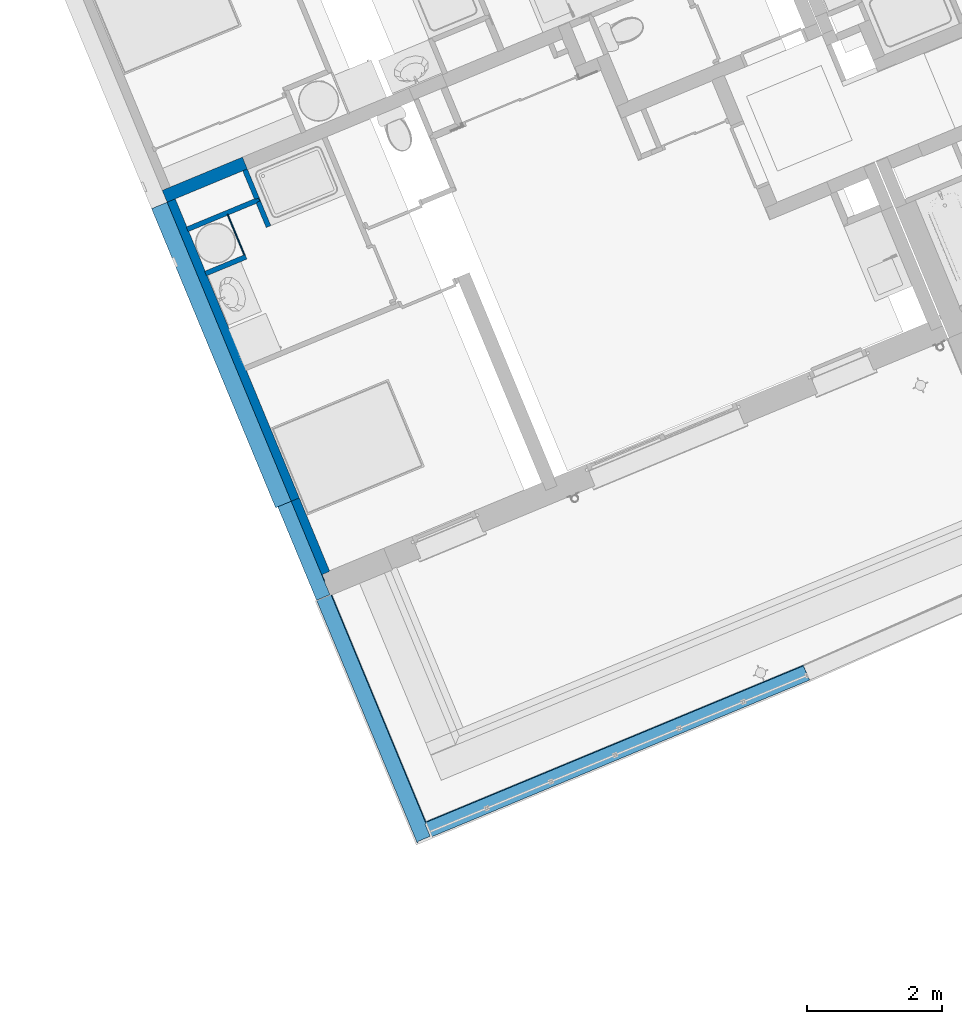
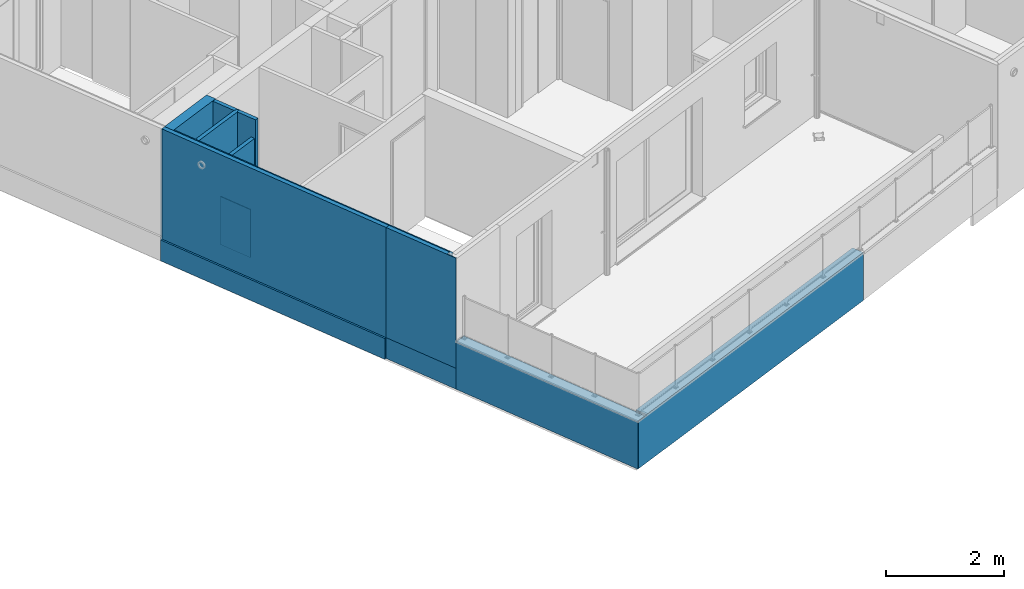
# One storey, part 35 of 119: 12 walls.
"""IFC2X3 building model written with IfcOpenShell, lengths in metres."""

from ifc_helpers import new_model, entity, si_unit, converted_unit, derived_unit, money_unit, direction, frame, origin_with_axes, place, context, subcontext, project, spatial, open_shell, faceted_brep, surface_model, material, material_list, type_object, element, save


model = new_model("IFC2X3")

# Units and contexts
model_context = context("Model", 3, precision=1e-05, world=origin_with_axes(), true_north=direction((0.0, 1.0)))
body_context = subcontext(model_context, "Body", "Model", "MODEL_VIEW")
ifc_project = project(units=[si_unit("LENGTHUNIT", "METRE"), si_unit("AREAUNIT", "SQUARE_METRE"), si_unit("VOLUMEUNIT", "CUBIC_METRE"), converted_unit("PLANEANGLEUNIT", "DEGREE", entity("IfcPlaneAngleMeasure", 0.0174532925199), si_unit("PLANEANGLEUNIT", "RADIAN"), dimensions=[0, 0, 0, 0, 0, 0, 0]), si_unit("SOLIDANGLEUNIT", "STERADIAN"), money_unit("EUR"), converted_unit("TIMEUNIT", "Year", entity("IfcTimeMeasure", 31556926.0), si_unit("TIMEUNIT", "SECOND"), dimensions=[0, 0, 1, 0, 0, 0, 0]), si_unit("MASSUNIT", "GRAM", prefix="KILO"), si_unit("THERMODYNAMICTEMPERATUREUNIT", "DEGREE_CELSIUS"), si_unit("LUMINOUSINTENSITYUNIT", "LUMEN"), si_unit("ENERGYUNIT", "JOULE", prefix="MEGA"), derived_unit("THERMALCONDUCTANCEUNIT", [(si_unit("POWERUNIT", "WATT"), 1), (si_unit("LENGTHUNIT", "METRE"), -1), (si_unit("THERMODYNAMICTEMPERATUREUNIT", "KELVIN"), -1)]), derived_unit("SPECIFICHEATCAPACITYUNIT", [(si_unit("ENERGYUNIT", "JOULE"), 1), (si_unit("MASSUNIT", "GRAM", prefix="KILO"), -1), (si_unit("THERMODYNAMICTEMPERATUREUNIT", "KELVIN"), -1)]), derived_unit("MASSDENSITYUNIT", [(si_unit("MASSUNIT", "GRAM", prefix="KILO"), 1), (si_unit("VOLUMEUNIT", "CUBIC_METRE"), -1)])], contexts=[model_context])

# Site, building, storey
site_placement = place(None, origin_with_axes())
site = spatial("IfcSite", under=ifc_project, at=site_placement, Name="Site", CompositionType="ELEMENT")
building_placement = place(site_placement, origin_with_axes())
building = spatial("IfcBuilding", under=site, at=building_placement, Name="Bâtiment", CompositionType="ELEMENT")
storey_placement = place(building_placement, origin_with_axes())
storey = spatial("IfcBuildingStorey", under=building, at=storey_placement, Name="Rez-de-chaussée", CompositionType="ELEMENT", Elevation=0.0)

# Walls
ifc_material_1 = material(Name="Béton")
wall_type_1 = type_object("IfcWallType", Name="Béton 250", PredefinedType="USERDEFINED")
wall_1_placement = place(storey_placement, frame((-33.2053250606, -22.6704058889, 0.0), z_axis=(0.0, 0.0, 1.0), x_axis=(0.383112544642, -0.923701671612, 0.0)))
element("IfcWall", 1, at=wall_1_placement, inside=storey, type_object=wall_type_1, material=ifc_material_1, Name="Voile projeté béton par passes alternées", ObjectType="SOLIDWALL", context=body_context, shape_type="Brep", body=[
    faceted_brep([(0.0, 0.0, 0.433099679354), (0.0, -0.25, 0.433099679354), (4.80482538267, -0.25, 0.433099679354), (4.80482538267, 0.0, 0.433099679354), (0.0, 0.0, 0.0), (0.0, -0.25, 0.0), (4.80482538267, -0.25, 0.0), (4.80482538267, 0.0, 0.0)], [[[0, 1, 2, 3]], [[4, 5, 1, 0]], [[1, 5, 6, 2]], [[7, 3, 2, 6]], [[4, 0, 3, 7]], [[5, 4, 7, 6]]]),
])
ifc_material_2 = material(Name="Finition int - Plaque de plâtre")
ifc_material_3 = material(Name="Isolation - Laine de roche")
ifc_material_list_1 = material_list([ifc_material_2, ifc_material_3, ifc_material_2])
wall_type_2 = type_object("IfcWallType", Name="3 - Cloison 72mm Placostil 74", PredefinedType="USERDEFINED")
wall_2_placement = place(storey_placement, frame((-31.6669648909, -23.0175254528, 0.0), z_axis=(0.0, 0.0, 1.0), x_axis=(-0.383112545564, 0.923701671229, 0.0)))
element("IfcWall", 2, at=wall_2_placement, inside=storey, type_object=wall_type_2, material=ifc_material_list_1, Name="Cloison Placostil 72/48", ObjectType="PARTITIONING", context=body_context, shape_type="Brep", body=[
    faceted_brep([(0.0, 0.061, 0.0), (0.387000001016, 0.061, 0.0), (0.387000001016, 0.061, 2.5), (0.0, 0.061, 2.5), (0.0, 0.074, 0.0), (0.387000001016, 0.074, 0.0), (0.387000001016, 0.074, 2.5), (0.0, 0.074, 2.5)], [[[0, 1, 2, 3]], [[4, 5, 1, 0]], [[5, 6, 2, 1]], [[3, 2, 6, 7]], [[0, 3, 7, 4]], [[7, 6, 5, 4]]]),
    faceted_brep([(0.0, 0.013, 0.0), (0.400000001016, 0.013, 0.0), (0.400000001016, 0.013, 2.5), (0.0, 0.013, 2.5), (0.0, 0.061, 0.0), (0.400000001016, 0.061, 0.0), (0.400000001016, 0.061, 2.5), (0.0, 0.061, 2.5)], [[[0, 1, 2, 3]], [[4, 5, 1, 0]], [[5, 6, 2, 1]], [[3, 2, 6, 7]], [[0, 3, 7, 4]], [[7, 6, 5, 4]]]),
    faceted_brep([(0.0, 0.0, 0.0), (0.387000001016, 0.0, 0.0), (0.387000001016, 0.0, 2.5), (0.0, 0.0, 2.5), (0.0, 0.013, 0.0), (0.387000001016, 0.013, 0.0), (0.387000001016, 0.013, 2.5), (0.0, 0.013, 2.5)], [[[0, 1, 2, 3]], [[4, 5, 1, 0]], [[5, 6, 2, 1]], [[3, 2, 6, 7]], [[0, 3, 7, 4]], [[7, 6, 5, 4]]]),
])
wall_3_placement = place(storey_placement, frame((-32.6218638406, -23.7639333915, 0.0), z_axis=(0.0, 0.0, 1.0), x_axis=(0.92370167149, 0.383112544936, 0.0)))
element("IfcWall", 3, at=wall_3_placement, inside=storey, type_object=wall_type_2, material=ifc_material_list_1, Name="Cloison Placostil 72/48", ObjectType="PARTITIONING", context=body_context, shape_type="Brep", body=[
    faceted_brep([(0.0, 0.074, 0.0), (0.650000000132, 0.074, 0.0), (0.650000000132, 0.061, 0.0), (0.0, 0.061, 0.0), (0.0, 0.074, 2.5), (0.650000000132, 0.074, 2.5), (0.650000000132, 0.061, 2.5), (0.0, 0.061, 2.5)], [[[0, 1, 2, 3]], [[4, 5, 1, 0]], [[2, 1, 5, 6]], [[3, 2, 6, 7]], [[4, 0, 3, 7]], [[7, 6, 5, 4]]]),
    faceted_brep([(0.0, 0.061, 0.0), (0.650000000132, 0.061, 0.0), (0.650000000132, 0.013, 0.0), (0.0, 0.013, 0.0), (0.0, 0.061, 2.5), (0.650000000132, 0.061, 2.5), (0.650000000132, 0.013, 2.5), (0.0, 0.013, 2.5)], [[[0, 1, 2, 3]], [[4, 5, 1, 0]], [[2, 1, 5, 6]], [[3, 2, 6, 7]], [[4, 0, 3, 7]], [[7, 6, 5, 4]]]),
    faceted_brep([(0.0, 0.013, 0.0), (0.650000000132, 0.013, 0.0), (0.650000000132, 0.0, 0.0), (0.0, 0.0, 0.0), (0.0, 0.013, 2.5), (0.650000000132, 0.013, 2.5), (0.650000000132, 0.0, 2.5), (0.0, 0.0, 2.5)], [[[0, 1, 2, 3]], [[4, 5, 1, 0]], [[2, 1, 5, 6]], [[3, 2, 6, 7]], [[4, 0, 3, 7]], [[7, 6, 5, 4]]]),
])
wall_type_3 = type_object("IfcWallType", Name="3 - Cloison Gaine Technique 72mm 74", PredefinedType="USERDEFINED")
wall_4_placement = place(storey_placement, frame((-31.8152294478, -22.6600529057, 0.0), z_axis=(0.0, 0.0, 1.0), x_axis=(-0.923701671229, -0.383112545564, 0.0)))
element("IfcWall", 4, at=wall_4_placement, inside=storey, type_object=wall_type_3, material=ifc_material_list_1, Name="Cloison Placostil 72/48", ObjectType="PARTITIONING", context=body_context, shape_type="Brep", body=[
    faceted_brep([(1.16799999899, 0.0, 0.0), (0.537999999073, 0.0, 0.0), (0.537999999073, 0.0, 1.0), (0.517999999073, 0.0, 1.0), (0.517999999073, 0.0, 0.0), (0.0609999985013, 0.0, 0.0), (0.0609999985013, 0.0, 2.5), (1.16799999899, 0.0, 2.5), (1.16799999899, -0.013, 0.0), (0.537999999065, -0.013, 0.0), (0.537999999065, -0.013, 1.0), (0.517999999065, -0.013, 1.0), (0.517999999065, -0.013, 0.0), (0.0609999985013, -0.013, 0.0), (0.0609999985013, -0.013, 2.5), (1.16799999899, -0.013, 2.5)], [[[0, 1, 2, 3, 4, 5, 6, 7]], [[8, 9, 1, 0]], [[10, 2, 1, 9]], [[11, 3, 2, 10]], [[12, 4, 3, 11]], [[5, 4, 12, 13]], [[13, 14, 6, 5]], [[7, 6, 14, 15]], [[0, 7, 15, 8]], [[11, 10, 9, 8, 15, 14, 13, 12]]]),
    faceted_brep([(-1.49868384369e-09, -0.013, 2.5), (0.0129999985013, -0.013, 2.5), (0.0129999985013, 0.0, 2.5), (-1.49868384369e-09, 0.0, 2.5), (-1.49868384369e-09, -0.013, 0.0), (0.0129999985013, -0.013, 0.0), (0.0129999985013, 0.0, 0.0), (-1.49868384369e-09, 0.0, 0.0)], [[[0, 1, 2, 3]], [[4, 5, 1, 0]], [[5, 6, 2, 1]], [[3, 2, 6, 7]], [[7, 4, 0, 3]], [[7, 6, 5, 4]]]),
    faceted_brep([(0.0129999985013, -0.013, 2.5), (0.0129999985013, -0.061, 2.5), (1.16799999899, -0.061, 2.5), (1.16799999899, -0.013, 2.5), (0.0129999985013, -0.013, 0.0), (0.0129999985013, -0.061, 0.0), (1.16799999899, -0.061, 0.0), (1.16799999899, -0.013, 0.0)], [[[0, 1, 2, 3]], [[4, 5, 1, 0]], [[1, 5, 6, 2]], [[7, 3, 2, 6]], [[4, 0, 3, 7]], [[5, 4, 7, 6]]]),
    faceted_brep([(0.0609999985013, -0.074, 2.5), (1.16799999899, -0.074, 2.5), (1.16799999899, -0.061, 2.5), (0.0609999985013, -0.061, 2.5), (0.0609999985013, -0.074, 0.0), (1.16799999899, -0.074, 0.0), (1.16799999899, -0.061, 0.0), (0.0609999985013, -0.061, 0.0)], [[[0, 1, 2, 3]], [[4, 5, 1, 0]], [[2, 1, 5, 6]], [[3, 2, 6, 7]], [[4, 0, 3, 7]], [[7, 6, 5, 4]]]),
])
wall_5_placement = place(storey_placement, frame((-31.8152294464, -22.6600529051, 0.0), z_axis=(0.0, 0.0, 1.0), x_axis=(-0.383112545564, 0.923701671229, 0.0)))
element("IfcWall", 5, at=wall_5_placement, inside=storey, type_object=wall_type_3, material=ifc_material_list_1, Name="Cloison Placostil 72/48", ObjectType="PARTITIONING", context=body_context, shape_type="Brep", body=[
    faceted_brep([(0.074, 0.074, 0.0), (0.523000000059, 0.074, 0.0), (0.523000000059, 0.061, 0.0), (0.074, 0.061, 0.0), (0.074, 0.074, 2.5), (0.523000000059, 0.074, 2.5), (0.523000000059, 0.061, 2.5), (0.074, 0.061, 2.5)], [[[0, 1, 2, 3]], [[4, 5, 1, 0]], [[2, 1, 5, 6]], [[3, 2, 6, 7]], [[4, 0, 3, 7]], [[7, 6, 5, 4]]]),
    faceted_brep([(0.061, 0.061, 0.0), (0.523000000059, 0.061, 0.0), (0.523000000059, 0.013, 0.0), (0.061, 0.013, 0.0), (0.061, 0.061, 2.5), (0.523000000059, 0.061, 2.5), (0.523000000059, 0.013, 2.5), (0.061, 0.013, 2.5)], [[[0, 1, 2, 3]], [[4, 5, 1, 0]], [[2, 1, 5, 6]], [[3, 2, 6, 7]], [[4, 0, 3, 7]], [[7, 6, 5, 4]]]),
    faceted_brep([(0.013, 0.0, 0.0), (0.013, 0.013, 0.0), (0.523000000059, 0.013, 0.0), (0.523000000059, 0.0, 0.0), (0.013, 0.0, 2.5), (0.013, 0.013, 2.5), (0.523000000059, 0.013, 2.5), (0.523000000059, 0.0, 2.5)], [[[0, 1, 2, 3]], [[4, 5, 1, 0]], [[1, 5, 6, 2]], [[7, 3, 2, 6]], [[4, 0, 3, 7]], [[5, 4, 7, 6]]]),
])
ifc_material_4 = material(Name="Finition int - Enduit plâtre")
ifc_material_list_2 = material_list([ifc_material_4, ifc_material_1])
wall_type_4 = type_object("IfcWallType", Name="2 - Murs Béton 18 + Enduit 1 Face 190", PredefinedType="USERDEFINED")
wall_6_placement = place(storey_placement, frame((-33.2781164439, -22.4949025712, 0.0), z_axis=(0.0, 0.0, 1.0), x_axis=(0.92370167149, 0.383112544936, 0.0)))
element("IfcWall", 6, at=wall_6_placement, inside=storey, type_object=wall_type_4, material=ifc_material_list_2, Name="M_Ext-008", ObjectType="SOLIDWALL", context=body_context, shape_type="Brep", body=[
    faceted_brep([(1.28799999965, 0.0, 2.51), (1.28799999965, -0.01, 2.51), (1.28799999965, -0.01, 0.0), (1.28799999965, 0.0, 0.0), (0.0, -0.01, 2.51), (0.0, -1.18464331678e-08, 2.51), (-1.61357149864e-10, -0.01, 0.493), (-1.61357149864e-10, -0.01, 0.0), (-1.5816681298e-10, 0.0, 0.0), (-1.58173918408e-10, -1.18464349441e-08, 0.493)], [[[0, 1, 2, 3]], [[4, 1, 0, 5]], [[1, 4, 6, 7, 2]], [[2, 7, 8, 3]], [[5, 0, 3, 8, 9]], [[4, 5, 9, 6]], [[8, 7, 6, 9]]]),
    faceted_brep([(1.28799999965, -0.01, 2.51), (1.28799999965, -0.19, 2.51), (1.28799999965, -0.19, 0.0), (1.28799999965, -0.01, 0.0), (0.0, -0.19, 2.51), (0.0, -0.01, 2.51), (-2.1869794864e-10, -0.19, 0.493), (-2.1869794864e-10, -0.19, 0.0), (-1.61357149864e-10, -0.01, 0.0), (-1.61357149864e-10, -0.01, 0.493)], [[[0, 1, 2, 3]], [[4, 1, 0, 5]], [[1, 4, 6, 7, 2]], [[2, 7, 8, 3]], [[5, 0, 3, 8, 9]], [[4, 5, 9, 6]], [[8, 7, 6, 9]]]),
])
ifc_material_5 = material(Name="Isolation - Polystyrène extrudé")
ifc_material_6 = material(Name="Etanchéité résine")
ifc_material_7 = material(Name="Finition ext - Crépis")
ifc_material_list_3 = material_list([ifc_material_2, ifc_material_5, ifc_material_6, ifc_material_1, ifc_material_7])
wall_type_5 = type_object("IfcWallType", Name="1 - Mur Extérieur BETON étanché+Isolant 120 + ravalement 345", PredefinedType="USERDEFINED")
wall_7_placement = place(storey_placement, frame((-33.3900653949, -22.7470283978, 0.433099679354), z_axis=(0.0, 0.0, 1.0), x_axis=(0.383112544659, -0.923701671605, 0.0)))
element("IfcWall", 7, at=wall_7_placement, inside=storey, type_object=wall_type_5, material=ifc_material_list_3, Name="M_Ext-009", ObjectType="SOLIDWALL", context=body_context, shape_type="Brep", body=[
    faceted_brep([(0.0, 0.33, 2.07690032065), (4.80482538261, 0.33, 2.07690032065), (4.80482538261, 0.33, 0.0), (0.0, 0.33, 0.0), (4.80482538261, 0.32, 2.07690032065), (0.0, 0.32, 2.07690032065), (4.80482538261, 0.32, 0.0), (0.0, 0.32, 0.0)], [[[0, 1, 2, 3]], [[4, 1, 0, 5]], [[1, 4, 6, 2]], [[3, 2, 6, 7]], [[5, 0, 3, 7]], [[4, 5, 7, 6]]]),
    faceted_brep([(0.0, 0.32, 2.07690032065), (4.80482538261, 0.32, 2.07690032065), (4.80482538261, 0.32, 0.0), (0.0, 0.32, 0.0), (4.80482538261, 0.21, 2.07690032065), (0.0, 0.21, 2.07690032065), (4.80482538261, 0.21, 0.0), (0.0, 0.21, 0.0)], [[[0, 1, 2, 3]], [[4, 1, 0, 5]], [[1, 4, 6, 2]], [[3, 2, 6, 7]], [[5, 0, 3, 7]], [[4, 5, 7, 6]]]),
    faceted_brep([(0.0, 0.21, 2.07690032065), (4.80482538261, 0.21, 2.07690032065), (4.80482538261, 0.21, 0.0), (0.0, 0.21, 0.0), (4.80482538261, 0.2, 2.07690032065), (0.0, 0.2, 2.07690032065), (4.80482538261, 0.2, 0.0), (0.0, 0.2, 0.0)], [[[0, 1, 2, 3]], [[4, 1, 0, 5]], [[1, 4, 6, 2]], [[3, 2, 6, 7]], [[5, 0, 3, 7]], [[4, 5, 7, 6]]]),
    faceted_brep([(0.0, 0.2, 2.07690032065), (4.80482538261, 0.2, 2.07690032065), (4.80482538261, 0.2, 0.0), (0.0, 0.2, 0.0), (4.80482538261, 0.0679999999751, 2.07690032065), (0.0, 0.0679999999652, 2.07690032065), (4.80482538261, 0.0679999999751, 2.28690032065), (4.80482538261, 0.0, 2.28690032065), (4.80482538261, 0.0, 0.0), (0.0, 0.0, 0.0), (0.0, 0.0, 2.28690032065), (0.0, 0.0679999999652, 2.28690032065)], [[[0, 1, 2, 3]], [[4, 1, 0, 5]], [[4, 6, 7, 8, 2, 1]], [[3, 2, 8, 9]], [[5, 0, 3, 9, 10, 11]], [[11, 6, 4, 5]], [[6, 11, 10, 7]], [[9, 8, 7, 10]]]),
    faceted_brep([(4.80482538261, 0.0, 0.0), (4.80482538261, -0.015, 0.0), (0.0, -0.015, 0.0), (0.0, 0.0, 0.0), (4.80482538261, 0.0, 2.28690032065), (4.80482538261, -0.015, 2.28690032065), (0.0, -0.015, 2.28690032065), (0.0, 0.0, 2.28690032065)], [[[0, 1, 2, 3]], [[0, 4, 5, 1]], [[1, 5, 6, 2]], [[3, 2, 6, 7]], [[4, 0, 3, 7]], [[5, 4, 7, 6]]]),
])
wall_8_placement = place(storey_placement, frame((-31.5492765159, -27.1852536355, 0.433099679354), z_axis=(0.0, 0.0, 1.0), x_axis=(0.383112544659, -0.923701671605, 0.0)))
element("IfcWall", 8, at=wall_8_placement, inside=storey, type_object=wall_type_5, material=ifc_material_list_3, Name="M_Ext-009", ObjectType="SOLIDWALL", context=body_context, shape_type="Brep", body=[
    faceted_brep([(0.0, 0.33, 2.07690032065), (1.17053599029, 0.33, 2.07690032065), (1.17053599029, 0.33, 0.0), (0.0, 0.33, 0.0), (1.17053599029, 0.32, 2.07690032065), (0.0, 0.32, 2.07690032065), (1.17053599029, 0.32, 0.0), (0.0, 0.32, 0.0)], [[[0, 1, 2, 3]], [[4, 1, 0, 5]], [[1, 4, 6, 2]], [[2, 6, 7, 3]], [[5, 0, 3, 7]], [[4, 5, 7, 6]]]),
    faceted_brep([(0.0, 0.32, 2.07690032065), (1.18053599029, 0.32, 2.07690032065), (1.18053599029, 0.32, 0.0), (0.0, 0.32, 0.0), (1.18053599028, 0.21, 2.07690032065), (0.0, 0.21, 2.07690032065), (1.18053599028, 0.21, 0.0), (0.0, 0.21, 0.0)], [[[0, 1, 2, 3]], [[4, 1, 0, 5]], [[1, 4, 6, 2]], [[2, 6, 7, 3]], [[5, 0, 3, 7]], [[4, 5, 7, 6]]]),
    faceted_brep([(0.0, 0.21, 2.07690032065), (1.29053599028, 0.21, 2.07690032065), (1.29053599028, 0.21, 0.0), (0.0, 0.21, 0.0), (1.29053599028, 0.2, 2.07690032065), (0.0, 0.2, 2.07690032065), (1.29053599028, 0.2, 0.0), (0.0, 0.2, 0.0)], [[[0, 1, 2, 3]], [[4, 1, 0, 5]], [[1, 4, 6, 2]], [[2, 6, 7, 3]], [[5, 0, 3, 7]], [[4, 5, 7, 6]]]),
    faceted_brep([(0.0, 0.2, 2.07690032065), (1.30053599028, 0.2, 2.07690032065), (1.30053599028, 0.2, 0.0), (0.0, 0.2, 0.0), (1.30053599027, 0.0679999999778, 2.07690032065), (0.0, 0.0679999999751, 2.07690032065), (1.30053599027, 0.0679999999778, 2.28690032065), (1.30053599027, 0.0, 2.28690032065), (1.30053599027, 0.0, 0.0), (0.0, 0.0, 0.0), (0.0, 0.0, 2.28690032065), (0.0, 0.0679999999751, 2.28690032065)], [[[0, 1, 2, 3]], [[4, 1, 0, 5]], [[4, 6, 7, 8, 2, 1]], [[2, 8, 9, 3]], [[5, 0, 3, 9, 10, 11]], [[11, 6, 4, 5]], [[6, 11, 10, 7]], [[8, 7, 10, 9]]]),
    faceted_brep([(1.50053599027, -0.015, 0.0), (0.0, -0.015, 0.0), (0.0, 0.0, 0.0), (1.50053599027, 0.0, 0.0), (1.50053599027, -0.015, 2.28690032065), (0.0, -0.015, 2.28690032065), (0.0, 0.0, 2.28690032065), (1.50053599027, 0.0, 2.28690032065)], [[[0, 1, 2, 3]], [[4, 5, 1, 0]], [[2, 1, 5, 6]], [[3, 2, 6, 7]], [[3, 7, 4, 0]], [[7, 6, 5, 4]]]),
])
ifc_material_8 = material(Name="Métal - Aluminium")
ifc_material_9 = material(Name="Etanchéité - Bitume")
ifc_material_list_4 = material_list([ifc_material_8, ifc_material_7, ifc_material_9, ifc_material_1, ifc_material_7])
wall_type_6 = type_object("IfcWallType", Name="Acrotère ravalement contre terre 242 x 1000", PredefinedType="USERDEFINED")
wall_9_placement = place(storey_placement, frame((-29.4949988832, -32.1778918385, 0.25), z_axis=(0.0, 0.0, 1.0), x_axis=(0.923701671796, 0.383112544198, 0.0)))
element("IfcWall", 9, at=wall_9_placement, inside=storey, type_object=wall_type_6, material=ifc_material_list_4, Name="Muret béton 20cm", ObjectType="PARAPET", context=body_context, shape_type="SurfaceModel", body=[
    faceted_brep([(0.216056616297, 0.215, 0.357041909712), (0.216056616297, 0.215, 0.320023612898), (0.219586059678, 0.215, 0.31897654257), (6.30291875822, 0.215, 0.318976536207), (6.30291875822, 0.215, 0.357041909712), (0.21605667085, 0.216045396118, 0.357041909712), (0.21605667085, 0.216045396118, 0.320023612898), (0.219586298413, 0.219574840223, 0.31897654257), (0.242497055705, 0.237655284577, 0.312179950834), (0.242497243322, 0.241250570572, 0.311101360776), (6.30265209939, 0.241250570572, 0.311101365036), (6.30290813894, 0.216045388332, 0.320023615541), (6.30290813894, 0.216045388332, 0.357041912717), (6.30265209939, 0.241250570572, 0.282882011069), (6.30263956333, 0.242484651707, 0.282882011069), (6.30263956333, 0.242484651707, 0.312179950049), (0.242497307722, 0.242484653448, 0.312179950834), (0.242497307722, 0.242484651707, 0.31), (0.242497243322, 0.241250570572, 0.31), (0.242497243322, 0.241250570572, 0.282882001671), (0.242497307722, 0.242484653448, 0.282882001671)], [[[0, 1, 2, 3, 4]], [[1, 0, 5, 6]], [[7, 2, 1, 6]], [[8, 9, 10, 3, 2]], [[11, 12, 4, 3, 10, 13, 14, 15]], [[5, 0, 4, 12]], [[6, 5, 12, 11]], [[2, 7, 16, 8]], [[7, 6, 11, 15, 16]], [[9, 8, 16, 17, 18]], [[9, 18, 19, 13, 10]], [[19, 20, 14, 13]], [[17, 16, 15, 14, 20]], [[18, 17, 20, 19]]]),
    faceted_brep([(6.3007342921, 0.215, 0.737322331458), (6.3007342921, 0.215, 0.75), (0.243270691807, 0.215, 0.75), (0.243270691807, 0.215, 0.737322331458), (0.237704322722, 0.215, 0.737322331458), (0.236734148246, 0.215, 0.735660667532), (0.240138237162, 0.215, 0.733044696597), (0.245013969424, 0.215, 0.729297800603), (0.230011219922, 0.215, 0.729297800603), (0.230011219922, 0.215, 0.357041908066), (6.30291875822, 0.215, 0.357041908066), (6.30291875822, 0.215, 0.729297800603), (6.3007342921, 0.215, 0.729297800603), (6.3007342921, 0.215, 0.733044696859), (6.30043047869, 0.229952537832, 0.75), (6.30043047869, 0.229952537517, 0.737322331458), (6.30276673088, 0.23000000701, 0.75), (0.243270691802, 0.23, 0.75), (0.243270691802, 0.229999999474, 0.737322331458), (0.23770432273, 0.229999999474, 0.737322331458), (0.236734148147, 0.229999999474, 0.735660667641), (0.240138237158, 0.229999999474, 0.733044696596), (0.245013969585, 0.229999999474, 0.729297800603), (0.230012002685, 0.229999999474, 0.729297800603), (0.230012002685, 0.229999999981, 0.357041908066), (0.230011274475, 0.216045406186, 0.357041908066), (6.30290813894, 0.216045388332, 0.357041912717), (6.30276638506, 0.229999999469, 0.729297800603), (6.30276638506, 0.229999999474, 0.357041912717), (6.3004304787, 0.229952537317, 0.729297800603), (6.3004304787, 0.22995253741, 0.733044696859), (6.30276637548, 0.229999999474, 0.737322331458), (6.30276638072, 0.229999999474, 0.733044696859)], [[[0, 1, 2, 3, 4, 5, 6, 7, 8, 9, 10, 11, 12, 13]], [[14, 1, 0, 15]], [[14, 16, 17, 2, 1]], [[3, 2, 17, 18]], [[4, 3, 18, 19]], [[4, 19, 20, 5]], [[21, 6, 5, 20]], [[6, 21, 22, 7]], [[8, 7, 22, 23]], [[8, 23, 24, 25, 9]], [[9, 25, 26, 10]], [[27, 11, 10, 26, 28]], [[12, 11, 27, 29]], [[30, 13, 12, 29]], [[15, 0, 13, 30]], [[31, 16, 14, 15]], [[16, 31, 32, 27, 28, 24, 23, 22, 21, 20, 19, 18, 17]], [[25, 24, 28, 26]], [[32, 30, 29, 27]], [[31, 15, 30, 32]]]),
    faceted_brep([(0.225011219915, 0.215, -0.24), (6.30291875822, 0.215000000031, -0.24), (6.30291875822, 0.215, 0.31), (0.225011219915, 0.215, 0.31), (6.3028171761, 0.225000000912, -0.24), (0.225011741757, 0.225, -0.24), (6.30281717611, 0.225, 0.31), (0.225011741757, 0.225, 0.31)], [[[0, 1, 2, 3]], [[4, 1, 0, 5]], [[1, 4, 6, 2]], [[6, 7, 3, 2]], [[5, 0, 3, 7]], [[4, 5, 7, 6]]]),
    faceted_brep([(6.30479799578, 0.015, 0.737322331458), (6.30479799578, 0.015, 0.75), (0.24327069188, 0.015, 0.75), (0.24327069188, 0.015, 0.737322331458), (0.237704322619, 0.015, 0.737322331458), (0.236734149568, 0.015, 0.735660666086), (0.240138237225, 0.015, 0.733044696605), (0.24501396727, 0.015, 0.729297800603), (0.215000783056, 0.015, 0.729297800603), (0.215000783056, 0.015, 0.357041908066), (0.215000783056, 0.015, 0.31897654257), (0.215000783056, 0.015, 0.31), (0.215000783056, 0.015, 0.282882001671), (0.215000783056, 0.015, -0.25), (6.30510277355, 0.015, -0.25), (6.30510277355, 0.015, -0.249529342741), (6.30495040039, 0.015, -0.249529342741), (6.30495040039, 0.015, 0.729297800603), (6.30479799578, 0.015, 0.729297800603), (6.30479799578, 0.015, 0.733044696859), (6.30073519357, 0.214955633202, 0.75), (6.30073519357, 0.214955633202, 0.737322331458), (6.30291875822, 0.215, 0.75), (0.243270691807, 0.215, 0.75), (0.243270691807, 0.215, 0.737322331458), (0.237704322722, 0.215, 0.737322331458), (0.236734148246, 0.215, 0.735660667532), (0.240138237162, 0.215, 0.733044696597), (0.245013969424, 0.215, 0.729297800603), (0.215011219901, 0.215, 0.729297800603), (0.215011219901, 0.215, 0.357041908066), (0.215011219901, 0.215, 0.31897654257), (0.215011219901, 0.215, 0.31), (0.215011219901, 0.215, 0.282882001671), (0.215011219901, 0.215, -0.25), (6.30510277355, 0.215, -0.25), (6.30510277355, 0.215, -0.249529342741), (6.30291875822, 0.215, -0.249529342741), (6.30291875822, 0.215, 0.31), (6.30291875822, 0.215, 0.31897654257), (6.30291875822, 0.215, 0.729297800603), (6.30073519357, 0.214955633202, 0.729297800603), (6.30073519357, 0.214955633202, 0.733044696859), (6.30291875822, 0.215, 0.737322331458), (6.30291875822, 0.215, 0.733044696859)], [[[0, 1, 2, 3, 4, 5, 6, 7, 8, 9, 10, 11, 12, 13, 14, 15, 16, 17, 18, 19]], [[20, 1, 0, 21]], [[20, 22, 23, 2, 1]], [[2, 23, 24, 3]], [[3, 24, 25, 4]], [[25, 26, 5, 4]], [[27, 6, 5, 26]], [[6, 27, 28, 7]], [[29, 8, 7, 28]], [[9, 8, 29, 30]], [[31, 10, 9, 30]], [[10, 31, 32, 11]], [[33, 12, 11, 32]], [[12, 33, 34, 13]], [[35, 14, 13, 34]], [[14, 35, 36, 15]], [[36, 37, 16, 15]], [[38, 39, 40, 17, 16, 37]], [[40, 41, 18, 17]], [[41, 42, 19, 18]], [[21, 0, 19, 42]], [[43, 22, 20, 21]], [[22, 43, 44, 40, 39, 31, 30, 29, 28, 27, 26, 25, 24, 23]], [[39, 38, 32, 31]], [[38, 37, 36, 35, 34, 33, 32]], [[40, 44, 42, 41]], [[43, 21, 42, 44]]]),
    surface_model("IfcShellBasedSurfaceModel", [(6.30510277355, 0.0150030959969, 0.737322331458), (6.30510277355, 0.0150030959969, 0.75), (6.30510277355, 0.015, 0.729297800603), (6.30510277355, 0.0150030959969, 0.733044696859), (6.30495040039, 0.015, 0.75), (6.30495040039, 0.015, 0.737322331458), (6.30495040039, 0.015, 0.733044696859), (6.30495040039, 0.015, 0.729297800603), (6.30510277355, 0.015, 0.75), (6.30510277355, 0.0150030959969, 0.729297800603)], [open_shell([[[0, 1, 2, 3]], [[4, 1, 0, 5]], [[4, 5, 6, 7, 2, 8]], [[7, 6, 3, 9]], [[5, 0, 3, 6]]])]),
    faceted_brep([(0.0150000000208, 6.90198831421e-09, 0.31897654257), (0.0150000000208, 6.90198831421e-09, 0.357041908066), (0.0150007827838, 0.015, 0.357041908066), (0.0150007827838, 0.015, 0.31897654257), (0.0150000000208, 6.90198831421e-09, 0.282882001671), (0.0150000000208, 6.90198831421e-09, -0.25), (6.30510277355, 0.0, -0.25), (6.30510277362, -6.54927845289e-09, -0.249529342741), (6.30510277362, -6.54927845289e-09, 0.729297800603), (6.30510277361, -5.39026956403e-09, 0.733044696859), (6.3051027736, -4.0670968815e-09, 0.737322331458), (6.30510277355, 0.0, 0.75), (0.243270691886, 1.3459668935e-09, 0.75), (0.243270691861, 1.34595978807e-09, 0.73732233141), (0.237704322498, 1.35167965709e-09, 0.737322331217), (0.236734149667, 1.35268152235e-09, 0.735660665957), (0.240138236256, 1.34918565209e-09, 0.733044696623), (0.245013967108, 1.34417277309e-09, 0.729297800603), (0.230000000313, 1.35960576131e-09, 0.729297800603), (0.0150000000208, 6.90198831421e-09, 0.729297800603), (0.0150000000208, 6.90198831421e-09, 0.31), (0.0150007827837, 0.015, 0.729297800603), (0.0150007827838, 0.015, -0.25), (0.0150007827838, 0.015, 0.282882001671), (0.0150007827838, 0.015, 0.31), (0.230000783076, 0.015, 0.729297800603), (0.24501396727, 0.015, 0.729297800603), (0.240138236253, 0.015, 0.733044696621), (0.236734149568, 0.015, 0.735660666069), (0.237704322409, 0.015, 0.737322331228), (0.243270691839, 0.015, 0.737322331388), (0.24327069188, 0.015, 0.75), (6.30479805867, 0.014996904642, 0.75), (6.30479805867, 0.014996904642, 0.737322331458), (6.30479805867, 0.014996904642, 0.733044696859), (6.30479805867, 0.014996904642, 0.729297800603), (6.30495040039, 0.015, 0.729297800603), (6.30495040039, 0.015, -0.249529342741), (6.30510277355, 0.015, -0.249529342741), (6.30510277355, 0.015, -0.25)], [[[0, 1, 2, 3]], [[4, 5, 6, 7, 8, 9, 10, 11, 12, 13, 14, 15, 16, 17, 18, 19, 1, 0, 20]], [[19, 21, 2, 1]], [[22, 23, 24, 3, 2, 21, 25, 26, 27, 28, 29, 30, 31, 32, 33, 34, 35, 36, 37, 38, 39]], [[20, 0, 3, 24]], [[22, 5, 4, 23]], [[5, 22, 39, 6]], [[7, 6, 39, 38]], [[8, 7, 37, 36]], [[8, 35, 34, 9]], [[9, 34, 33, 10]], [[10, 33, 32, 11]], [[32, 31, 12, 11]], [[30, 13, 12, 31]], [[29, 14, 13, 30]], [[29, 28, 15, 14]], [[16, 15, 28, 27]], [[16, 27, 26, 17]], [[25, 18, 17, 26]], [[21, 19, 18, 25]], [[23, 4, 20, 24]], [[35, 8, 36]], [[37, 7, 38]]]),
])
wall_10_placement = place(storey_placement, frame((-30.9882571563, -28.5770476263, 0.25), z_axis=(0.0, 0.0, 1.0), x_axis=(0.383064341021, -0.923721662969, 0.0)))
element("IfcWall", 10, at=wall_10_placement, inside=storey, type_object=wall_type_6, material=ifc_material_list_4, Name="Muret béton 20cm", ObjectType="PARAPET", context=body_context, shape_type="Brep", body=[
    faceted_brep([(3.68318052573, 0.216045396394, 0.320023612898), (3.68318034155, 0.219574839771, 0.31897654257), (3.66052387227, 0.242484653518, 0.312179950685), (0.0, 0.242484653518, 0.312179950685), (0.0, 0.216045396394, 0.320023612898), (3.68318058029, 0.215, 0.31897654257), (3.68318052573, 0.216045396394, 0.357041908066), (3.68318058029, 0.215, 0.357041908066), (3.65692864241, 0.241250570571, 0.311101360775), (3.65692857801, 0.242484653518, 0.311101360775), (3.65692857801, 0.242484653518, 0.31), (3.65692857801, 0.242484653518, 0.282882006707), (0.0, 0.242484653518, 0.282882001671), (0.0, 0.241250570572, 0.282882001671), (0.0, 0.241250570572, 0.311101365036), (0.0, 0.215, 0.318976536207), (0.0, 0.215, 0.357041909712), (0.0, 0.216045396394, 0.357041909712), (3.65692864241, 0.241250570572, 0.31), (3.65692864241, 0.241250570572, 0.282882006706)], [[[0, 1, 2, 3, 4]], [[5, 1, 0, 6, 7]], [[1, 5, 8, 9, 2]], [[9, 10, 11, 12, 3, 2]], [[4, 3, 12, 13, 14, 15, 16, 17]], [[6, 0, 4, 17]], [[7, 6, 17, 16]], [[5, 7, 16, 15]], [[8, 5, 15, 14]], [[10, 9, 8, 18]], [[10, 18, 19, 11]], [[11, 19, 13, 12]], [[18, 8, 14, 13, 19]]]),
    faceted_brep([(0.00101657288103, 0.215, 0.75), (0.00101579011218, 0.23, 0.75), (0.0, 0.23, 0.75), (0.0, 0.215, 0.75), (0.00101579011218, 0.23, 0.737322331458), (0.00101657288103, 0.215, 0.737322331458), (0.00101579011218, 0.23, 0.733044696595), (0.00101579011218, 0.23, 0.729297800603), (3.68317979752, 0.23, 0.729297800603), (3.68317979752, 0.23, 0.357041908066), (0.0, 0.23, 0.357041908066), (0.0, 0.216045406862, 0.357041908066), (0.0, 0.215, 0.357041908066), (3.68318058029, 0.215, 0.357041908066), (3.68318058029, 0.215, 0.729297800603), (0.00101657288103, 0.215, 0.729297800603), (0.00101657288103, 0.215, 0.733044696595), (3.68318052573, 0.216045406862, 0.357041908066)], [[[0, 1, 2, 3]], [[4, 1, 0, 5]], [[1, 4, 6, 7, 8, 9, 10, 2]], [[3, 2, 10, 11, 12]], [[5, 0, 3, 12, 13, 14, 15, 16]], [[4, 5, 16, 6]], [[6, 16, 15, 7]], [[14, 8, 7, 15]], [[8, 14, 13, 17, 9]], [[9, 17, 11, 10]], [[17, 13, 12, 11]]]),
    faceted_brep([(0.0149882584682, 0.225, -0.2), (0.0149882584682, 0.225, -0.24), (0.0, 0.225, -0.24), (0.0, 0.225, 0.31), (3.68318005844, 0.225, 0.31), (3.68318005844, 0.225, -0.24), (3.65317104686, 0.225, -0.24), (3.65317104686, 0.225, -0.2), (0.0149887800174, 0.215005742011, -0.2), (0.0149887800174, 0.215005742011, -0.24), (0.0, 0.214999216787, -0.24), (0.0, 0.215, 0.31), (3.68318058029, 0.215, 0.31), (3.68318058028, 0.215005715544, -0.24), (3.6531715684, 0.215005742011, -0.24), (3.6531715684, 0.215005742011, -0.2)], [[[0, 1, 2, 3, 4, 5, 6, 7]], [[1, 0, 8, 9]], [[1, 9, 10, 2]], [[2, 10, 11, 3]], [[11, 12, 4, 3]], [[13, 5, 4, 12]], [[14, 6, 5, 13]], [[7, 6, 14, 15]], [[0, 7, 15, 8]], [[15, 14, 13, 12, 11, 10, 9, 8]]]),
    faceted_brep([(0.0, 0.015, 0.75), (0.00102700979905, 0.015, 0.75), (0.00101657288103, 0.215, 0.75), (0.0, 0.215, 0.75), (0.00102700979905, 0.015, 0.733044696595), (0.00102700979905, 0.015, 0.737322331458), (0.0, 0.015, -0.25), (3.8831910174, 0.015, -0.25), (3.8831910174, 0.015, 0.282882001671), (3.8831910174, 0.015, 0.31), (3.8831910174, 0.015, 0.31897654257), (3.8831910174, 0.015, 0.357041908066), (3.8831910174, 0.015, 0.729297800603), (0.00102700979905, 0.015, 0.729297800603), (0.00101657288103, 0.215, 0.737322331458), (0.00101657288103, 0.215, 0.733044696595), (0.00101657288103, 0.215, 0.729297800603), (3.88318058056, 0.215, 0.729297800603), (3.88318058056, 0.215, 0.357041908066), (3.88318058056, 0.215, 0.31897654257), (0.0, 0.215, 0.31897654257), (0.0, 0.215, -0.25), (0.0, 0.215, 0.31), (3.88318058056, 0.215, -0.25), (3.88318058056, 0.215, 0.282882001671), (3.88318058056, 0.215, 0.31)], [[[0, 1, 2, 3]], [[4, 5, 1, 0, 6, 7, 8, 9, 10, 11, 12, 13]], [[5, 14, 2, 1]], [[3, 2, 14, 15, 16, 17, 18, 19, 20]], [[21, 6, 0, 3, 20, 22]], [[15, 14, 5, 4]], [[21, 23, 7, 6]], [[23, 24, 8, 7]], [[24, 25, 9, 8]], [[25, 19, 10, 9]], [[19, 18, 11, 10]], [[18, 17, 12, 11]], [[13, 12, 17, 16]], [[16, 15, 4, 13]], [[20, 19, 25, 22]], [[22, 25, 24, 23, 21]]]),
    faceted_brep([(0.0, 0.0, 0.75), (0.0010277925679, 0.0, 0.75), (0.00102700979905, 0.015, 0.75), (0.0, 0.015, 0.75), (0.00102779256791, 0.0, 0.733044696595), (0.00102779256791, 0.0, 0.737322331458), (0.0, 0.0, -0.25), (3.89819179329, 0.0, -0.25), (3.89819179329, 0.0, 0.729297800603), (0.00102779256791, 0.0, 0.729297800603), (0.00102700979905, 0.015, 0.737322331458), (0.00102700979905, 0.015, 0.733044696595), (0.00102700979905, 0.015, 0.729297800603), (3.89819101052, 0.015, 0.729297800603), (3.89819101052, 0.015, -0.25), (0.0, 0.015, -0.25)], [[[0, 1, 2, 3]], [[4, 5, 1, 0, 6, 7, 8, 9]], [[5, 10, 2, 1]], [[3, 2, 10, 11, 12, 13, 14, 15]], [[6, 0, 3, 15]], [[11, 10, 5, 4]], [[6, 15, 14, 7]], [[14, 13, 8, 7]], [[9, 8, 13, 12]], [[12, 11, 4, 9]]]),
])
ifc_material_10 = material(Name="Bois - Mélaminé blanc")
wall_type_7 = type_object("IfcWallType", Name="Bois - Mélaminé blanc 20", PredefinedType="USERDEFINED")
wall_11_placement = place(storey_placement, frame((-32.0498080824, -23.4465563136, 0.0), z_axis=(0.0, 0.0, 1.0), x_axis=(-0.383112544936, 0.92370167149, 0.0)))
element("IfcWall", 11, at=wall_11_placement, inside=storey, type_object=wall_type_7, material=ifc_material_10, Name="Panneaux 20mm mélaminé blanc", ObjectType="PARTITIONING", context=body_context, shape_type="Brep", body=[
    faceted_brep([(0.0, 0.02, 0.0), (0.649624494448, 0.02, 0.0), (0.649624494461, 0.0, 0.0), (0.0, 0.0, 0.0), (0.0, 0.02, 1.0), (0.649624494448, 0.02, 1.0), (0.649624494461, 0.0, 1.0), (0.0, 0.0, 1.0)], [[[0, 1, 2, 3]], [[4, 5, 1, 0]], [[6, 2, 1, 5]], [[3, 2, 6, 7]], [[7, 4, 0, 3]], [[7, 6, 5, 4]]]),
])
ifc_material_list_5 = material_list([ifc_material_7, ifc_material_1])
wall_type_8 = type_object("IfcWallType", Name="1 - Mur BETON 20+ ravalement 1 face 215", PredefinedType="USERDEFINED")
wall_12_placement = place(storey_placement, frame((-31.3645361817, -27.1086311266, 0.0), z_axis=(0.0, 0.0, 1.0), x_axis=(0.383112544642, -0.923701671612, 0.0)))
element("IfcWall", 12, at=wall_12_placement, inside=storey, type_object=wall_type_8, material=ifc_material_list_5, Name="Voile projeté béton par passes alternées", ObjectType="SOLIDWALL", context=body_context, shape_type="Brep", body=[
    faceted_brep([(0.0, -0.015, 0.433099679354), (1.50053599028, -0.015, 0.433099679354), (1.50053599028, 0.0, 0.433099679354), (0.0, 0.0, 0.433099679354), (0.0, -0.015, 0.0), (1.50053599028, -0.015, 0.0), (1.50053599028, 0.0, 0.0), (0.0, 0.0, 0.0)], [[[0, 1, 2, 3]], [[4, 5, 1, 0]], [[2, 1, 5, 6]], [[3, 2, 6, 7]], [[4, 0, 3, 7]], [[7, 6, 5, 4]]]),
    faceted_brep([(0.0, -0.215, 0.433099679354), (1.50053599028, -0.215, 0.433099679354), (1.50053599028, -0.015, 0.433099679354), (0.0, -0.015, 0.433099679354), (0.0, -0.215, 0.0), (1.50053599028, -0.215, 0.0), (1.50053599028, -0.015, 0.0), (0.0, -0.015, 0.0)], [[[0, 1, 2, 3]], [[4, 5, 1, 0]], [[2, 1, 5, 6]], [[3, 2, 6, 7]], [[4, 0, 3, 7]], [[7, 6, 5, 4]]]),
])

save(model, "model.ifc")
